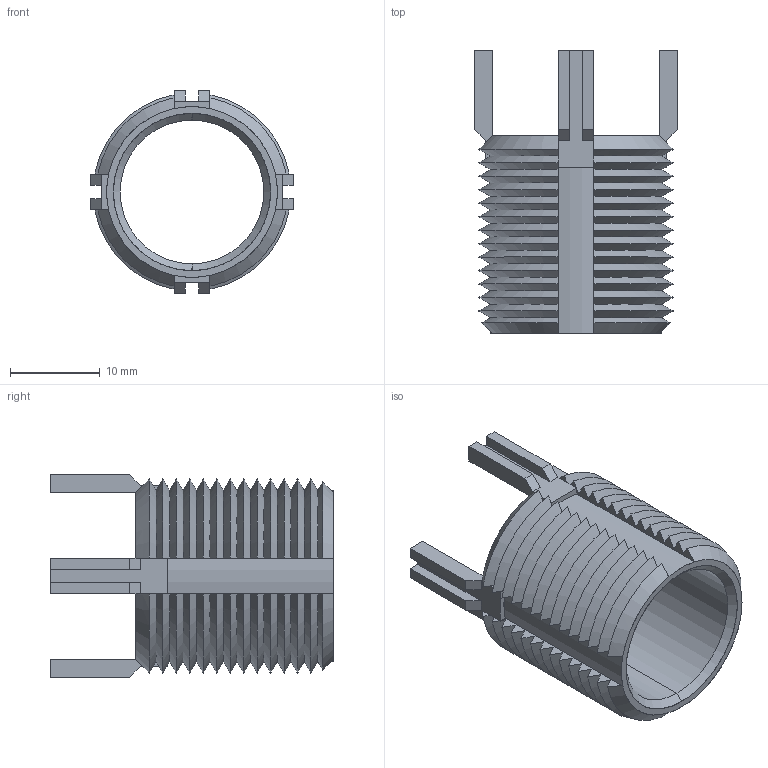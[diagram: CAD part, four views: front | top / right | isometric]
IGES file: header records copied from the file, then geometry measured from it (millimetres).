
Start section: SolidWorks IGES file using analytic representation for surfaces
Global section: file name: C:\Users\IanO\Desktop\PDF data sheets and models from M drive\TR1525_v2_20230326_IGES\TR1525.66171.igs; native system: SolidWorks 2019; preprocessor: SolidWorks 2019; author: IanO; date: 230326.185133; units: millimetre
Bounding box: 22.57 x 31.5 x 22.57 mm (x, y, z)
Surface area: 4370.7 mm2 (no closed solid volume)
Topology: 0 solids, 0 shells, 212 faces, 1264 edges, 1264 vertices
Faces by surface type: revolution 122, bspline 90
